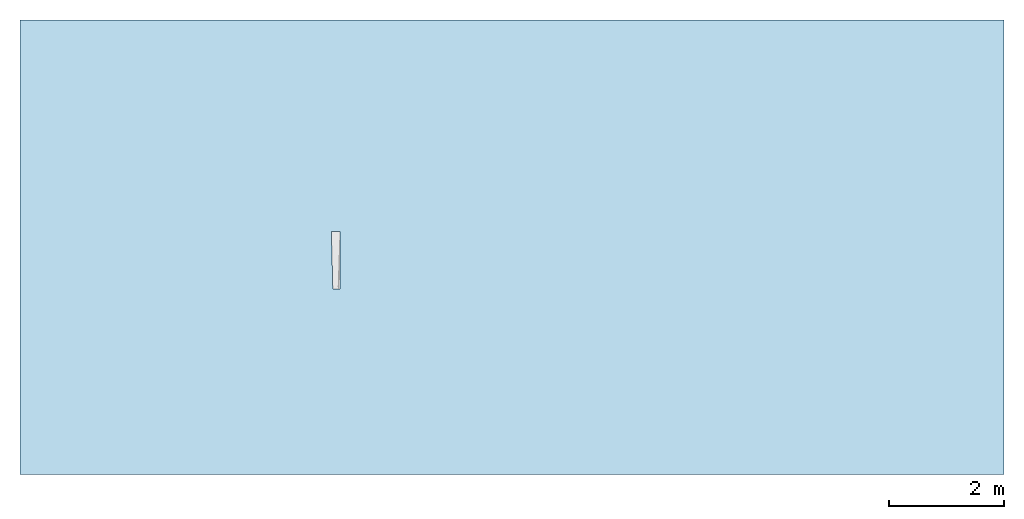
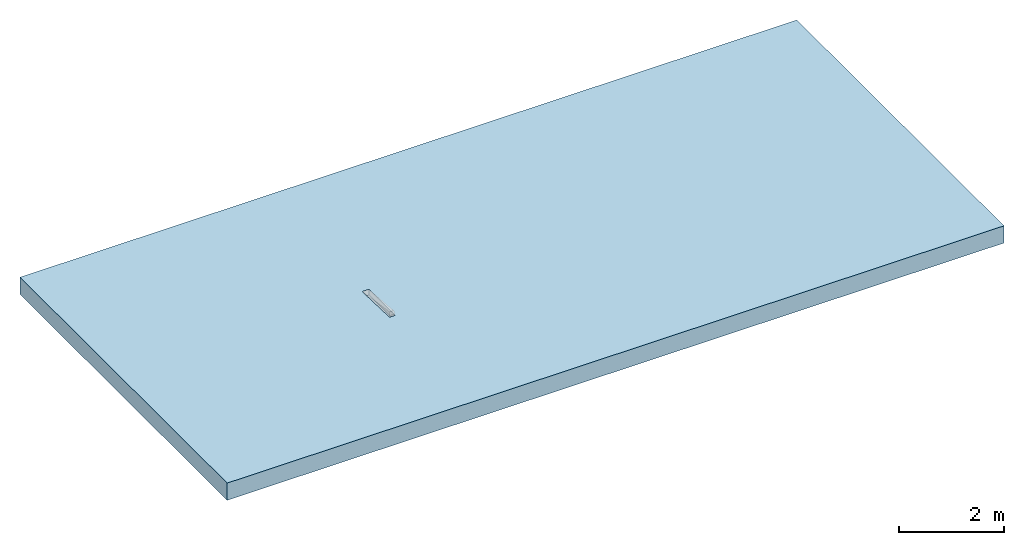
# One storey, incomplete: 1 slab, 3 openings.
"""IFC2X3 building model written with IfcOpenShell, lengths in millimetres."""

from ifc_helpers import new_model, entity, si_unit, converted_unit, direction, frame, frame_2d, origin, origin_2d_with_axis, place, context, subcontext, project, spatial, polyline, rectangle, outline, extrude, material, layer, layer_set, layer_usage, element, save


model = new_model("IFC2X3")

# Units and contexts
model_context = context("Model", 3, precision=1e-06, world=origin(), true_north=direction((2.0, 6.12303176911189e-17, 1.0)))
context_of_model = context(None, 3, precision=1e-06, world=origin(), true_north=direction((2.0, 6.12303176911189e-17, 1.0)))
body_context = subcontext(model_context, "Body", "Model", "MODEL_VIEW")
ifc_project = project(units=[si_unit("LENGTHUNIT", "METRE", prefix="MILLI"), si_unit("AREAUNIT", "SQUARE_METRE", prefix="MILLI"), si_unit("VOLUMEUNIT", "CUBIC_METRE", prefix="MILLI"), converted_unit("PLANEANGLEUNIT", "DEGREE", entity("IfcRatioMeasure", 0.0174532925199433), si_unit("PLANEANGLEUNIT", "RADIAN"), dimensions=[0, 0, 0, 0, 0, 0, 0]), si_unit("TIMEUNIT", "SECOND")], contexts=[model_context, context_of_model])

# Site, building, storey
site_placement = place(None, origin())
site = spatial("IfcSite", under=ifc_project, at=site_placement, Name="Default", CompositionType="ELEMENT")
building_placement = place(site_placement, origin())
building = spatial("IfcBuilding", under=site, at=building_placement, CompositionType="ELEMENT")
storey_placement = place(building_placement, origin())
storey = spatial("IfcBuildingStorey", under=building, at=storey_placement, Name="Level 1", CompositionType="ELEMENT", Elevation=0.0)

# Slab, openings
ifc_material = material(Name="Plant")
ifc_layer = layer(ifc_material, 400.0)
ifc_layer_set = layer_set([ifc_layer], Name="Floor:Generic Floor - 400mm")
ifc_layer_usage = layer_usage(ifc_layer_set, "AXIS3", "POSITIVE", 0.0)
slab_placement = place(storey_placement, origin())
slab = element("IfcSlab", 1, at=slab_placement, inside=storey, material=ifc_layer_usage, Name="Floor:Generic Floor - 400mm", ObjectType="Floor:Generic Floor - 400mm", PredefinedType="FLOOR", context=body_context, shape_type="SweptSolid", body=[
    extrude(rectangle(XDim=7900.0, YDim=17100.0, at=frame_2d((0.0, 0.0), x_axis=(0.0, -1.0))), frame((-8097.86261836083, 1059.07636553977, 0.0), z_axis=(0.0, 0.0, -1.0), x_axis=(-1.0, 0.0, 0.0)), (0.0, 0.0, 1.0), 400.0),
])
opening_1_placement = place(slab_placement, origin())
element("IfcOpeningElement", 2, at=opening_1_placement, cuts=slab, ObjectType="Recess", context=body_context, shape_type="SweptSolid", body=[
    extrude(rectangle(XDim=280.350941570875, YDim=25.5515234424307, at=origin_2d_with_axis()), frame((-11236.6900252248, 586.058372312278, -1875.0), z_axis=(0.0, 0.0, 1.0), x_axis=(0.0, -1.0, 0.0)), (0.0, 0.0, 1.0), 255.0),
])
opening_2_placement = place(slab_placement, origin())
element("IfcOpeningElement", 3, at=opening_2_placement, cuts=slab, ObjectType="Recess", context=body_context, shape_type="SweptSolid", body=[
    extrude(outline(polyline([(-501.874438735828, -68.7285256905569), (498.4380124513, -68.7285256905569), (501.562036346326, 56.2324301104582), (-498.125610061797, 81.2246212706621), (-501.874438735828, -68.7285256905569)])), frame((-11155.1642635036, 835.882901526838, -130.0), z_axis=(0.0, 0.0, 1.0), x_axis=(0.0249921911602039, -0.999687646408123, 0.0)), (0.0, 0.0, 1.0), 130.0),
])
opening_3_placement = place(slab_placement, origin())
element("IfcOpeningElement", 4, at=opening_3_placement, cuts=slab, ObjectType="Recess", context=body_context, shape_type="SweptSolid", body=[
    extrude(rectangle(XDim=149.999999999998, YDim=1000.0, at=frame_2d((10.0, -100.0), x_axis=(1.0, 0.0))), frame((-11151.4142635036, 735.882901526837, -2005.0), z_axis=(0.0, 0.0, 1.0), x_axis=(-1.0, 0.0, 0.0)), (0.0, 0.0, 1.0), 4.99999999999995),
])

save(model, "model.ifc")
